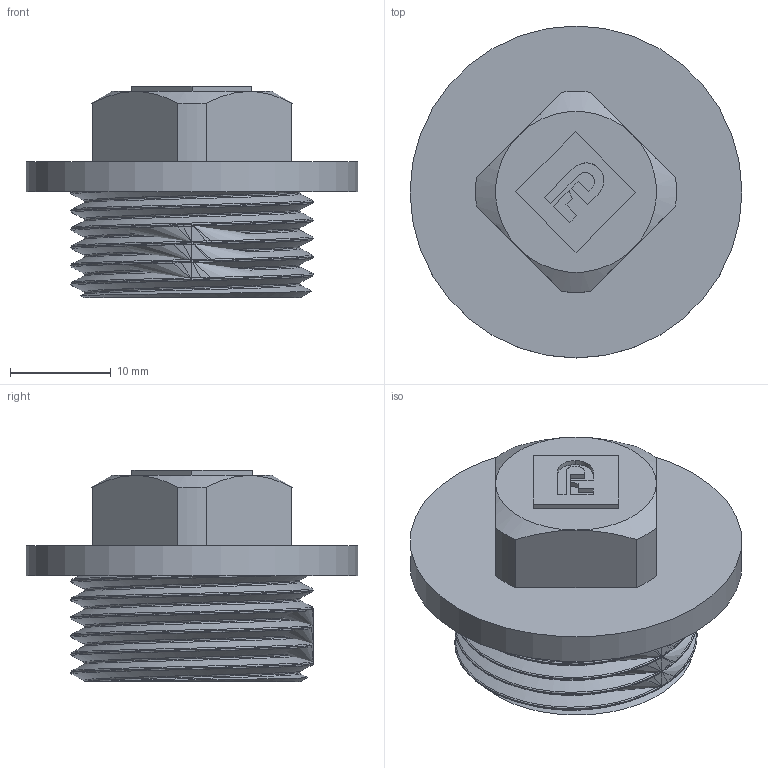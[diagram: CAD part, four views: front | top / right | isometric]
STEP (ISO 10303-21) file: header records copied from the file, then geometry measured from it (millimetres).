
FILE_DESCRIPTION(/* description */ (''),/* implementation_level */ '2;1');
FILE_NAME(/* name */ 'C:\Users\Doom\Desktop\Фадотех\Резьба\ZN02 18.03.2020\ZN02 18.03.2020.stp',/* time_stamp */ '2022-01-22T15:15:55+02:00',/* author */ ('Doom'),/* organization */ (''),/* preprocessor_version */ 'ST-DEVELOPER v18',/* originating_system */ 'Autodesk Inventor 2020',/* authorisation */ '');
FILE_SCHEMA (('AUTOMOTIVE_DESIGN { 1 0 10303 214 3 1 1 }'));
Length unit declared in the file: millimetre
Products named in the file (1): ZN02 18.03.2020
Bounding box: 33 x 33 x 21 mm (x, y, z)
Volume: 8157.9 mm3; surface area: 6296.3 mm2
Topology: 2 solids, 2 shells, 66 faces, 164 edges, 109 vertices
Faces by surface type: plane 33, cylinder 18, bspline 10, cone 5
Full cylindrical faces by diameter (mm): 9.5 x1, 15 x1, 21.42 x2, 24.11 x7, 33 x1
Entity records: 5377 total; most frequent: CARTESIAN_POINT 3851, ORIENTED_EDGE 328, DIRECTION 265, EDGE_CURVE 164, VERTEX_POINT 109, AXIS2_PLACEMENT_3D 91, LINE 83, VECTOR 83
